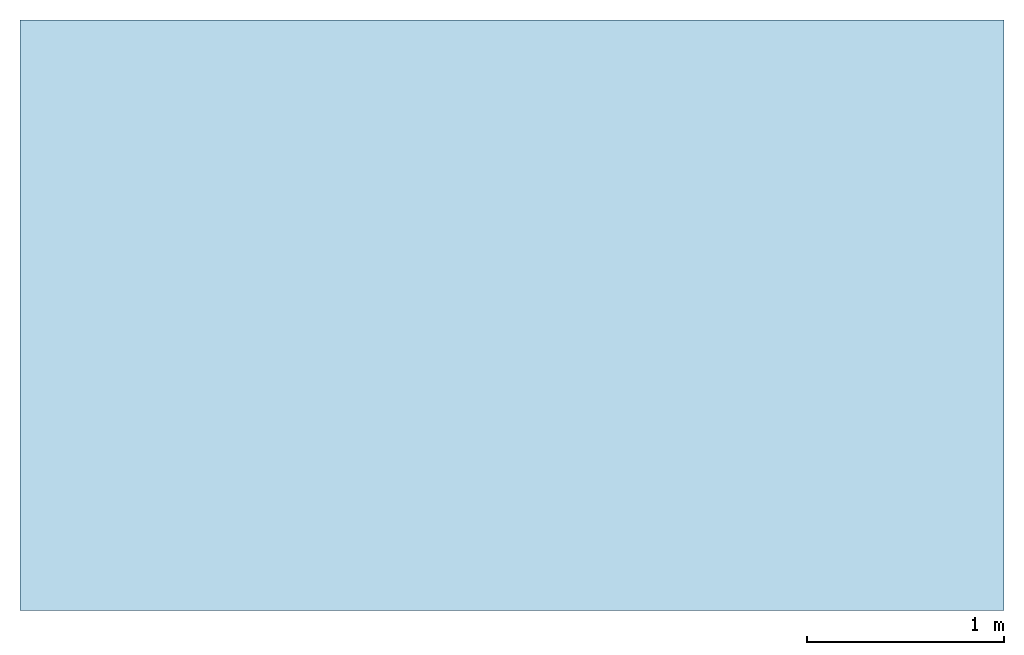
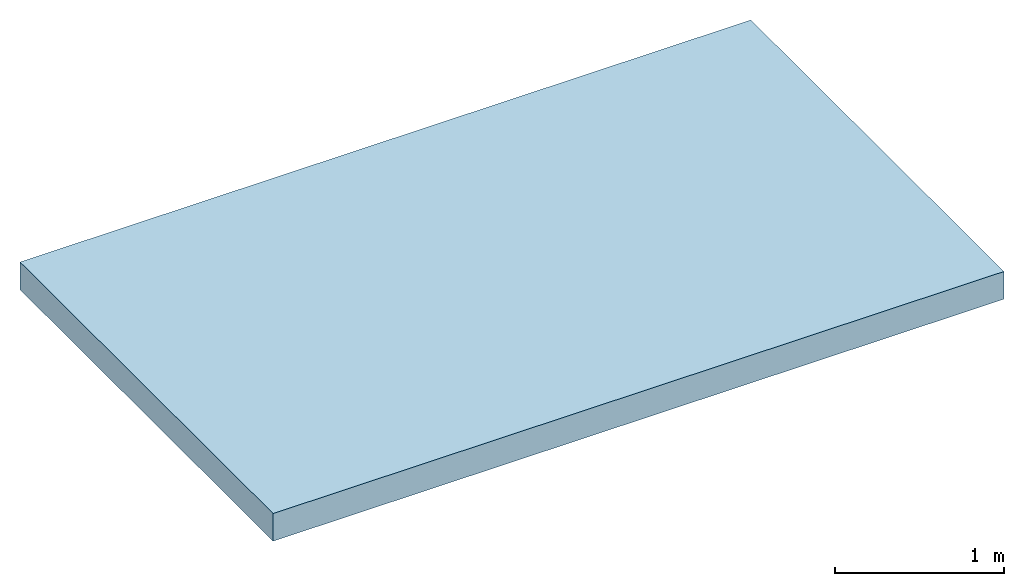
# One storey: 1 slab.
"""IFC4 building model written with IfcOpenShell, lengths in metres."""

import ifcopenshell
import ifcopenshell.guid

model = None  # the IFC model being written
_history = None  # IfcOwnerHistory: only IFC2X3 demands one
_inside = {}  # id of a spatial element -> (the spatial element, [elements in it])
_under = {}  # id of a project, library or spatial element -> (it, [spatial elements below it])
_declared = {}  # id of a project -> (the project, [libraries it declares])
_typed = {}  # id of a type object -> (the type object, [elements of that type])
_made_of = {}  # id of a material, layer set ... -> (it, [elements and type objects made of it])


def new_model(schema):
    """Start an empty IFC model of exactly this schema.

    Asked for "IFC4X3", IfcOpenShell would pick the latest addendum, in which some entities
    have other attributes; the version numbers below select the first issue.
    IFC2X3 requires an IfcOwnerHistory on every rooted entity: one is made here for all.
    """
    global model, _history
    if schema == "IFC4X3":
        model = ifcopenshell.file(schema_version=(4, 3, 0, 0))
    else:
        model = ifcopenshell.file(schema=schema)
    _inside.clear()
    _under.clear()
    _declared.clear()
    _typed.clear()
    _made_of.clear()
    _history = None
    if model.schema == "IFC2X3":
        org = make("IfcOrganization", Name="unknown")
        user = make(
            "IfcPersonAndOrganization",
            ThePerson=make("IfcPerson", FamilyName="unknown"),
            TheOrganization=org,
        )
        app = make(
            "IfcApplication",
            ApplicationDeveloper=org,
            Version="unknown",
            ApplicationFullName="unknown",
            ApplicationIdentifier="unknown",
        )
        _history = make(
            "IfcOwnerHistory",
            OwningUser=user,
            OwningApplication=app,
            ChangeAction="ADDED",
            CreationDate=0,
        )
    return model


def make(cls, **values):
    """One entity of the class cls with the attributes given. An attribute that is None is left unset."""
    return model.create_entity(
        cls, **{name: value for name, value in values.items() if value is not None}
    )


def entity(cls, *values):
    """Any entity or typed value of the class cls, its attributes in the order of the schema. None: left unset."""
    e = model.create_entity(cls)
    for i, value in enumerate(values):
        if value is not None:
            e[i] = value
    return e


def rooted(cls, **values):
    """An entity with a GlobalId (a new one), such as an element, a storey or a relation."""
    return make(cls, GlobalId=ifcopenshell.guid.new(), OwnerHistory=_history, **values)


def si_unit(unit_type, name, prefix=None):
    """IfcSIUnit, for example si_unit("LENGTHUNIT", "METRE", prefix="MILLI")."""
    return make("IfcSIUnit", UnitType=unit_type, Prefix=prefix, Name=name)


def converted_unit(unit_type, name, factor, base, dimensions=None, offset=None):
    """IfcConversionBasedUnit, such as the inch: factor (a typed value) times the base unit."""
    return make(
        "IfcConversionBasedUnit"
        if offset is None
        else "IfcConversionBasedUnitWithOffset",
        ConversionOffset=offset,
        Dimensions=None
        if dimensions is None
        else entity("IfcDimensionalExponents", *dimensions),
        UnitType=unit_type,
        Name=name,
        ConversionFactor=make(
            "IfcMeasureWithUnit", ValueComponent=factor, UnitComponent=base
        ),
    )


def derived_unit(unit_type, elements):
    """IfcDerivedUnit: a product of units, each with its exponent."""
    return make(
        "IfcDerivedUnit",
        Elements=[
            make("IfcDerivedUnitElement", Unit=unit, Exponent=power)
            for unit, power in elements
        ],
        UnitType=unit_type,
    )


def assignment(units):
    """IfcUnitAssignment: the units of a project."""
    return None if units is None else make("IfcUnitAssignment", Units=units)


def point(xyz):
    """IfcCartesianPoint."""
    return None if xyz is None else make("IfcCartesianPoint", Coordinates=xyz)


def direction(xyz):
    """IfcDirection."""
    return None if xyz is None else make("IfcDirection", DirectionRatios=xyz)


def frame(location, z_axis=None, x_axis=None):
    """IfcAxis2Placement3D, a coordinate frame: its origin and axes. An axis left out is left unset."""
    return make(
        "IfcAxis2Placement3D",
        Location=point(location),
        Axis=direction(z_axis),
        RefDirection=direction(x_axis),
    )


def frame_2d(location, x_axis=None):
    """IfcAxis2Placement2D, a coordinate frame in the plane: its origin and x axis."""
    return make(
        "IfcAxis2Placement2D", Location=point(location), RefDirection=direction(x_axis)
    )


def origin():
    """The frame at (0, 0, 0) with its axes left unset."""
    return frame((0.0, 0.0, 0.0))


def place(relative_to, where):
    """IfcLocalPlacement: puts the frame where relative to a parent placement (None: the world)."""
    return make(
        "IfcLocalPlacement", PlacementRelTo=relative_to, RelativePlacement=where
    )


def context(
    kind, dimensions, precision=None, world=None, true_north=None, identifier=None
):
    """IfcGeometricRepresentationContext, for example the 3D "Model" context."""
    return make(
        "IfcGeometricRepresentationContext",
        ContextIdentifier=identifier,
        ContextType=kind,
        CoordinateSpaceDimension=dimensions,
        Precision=precision,
        WorldCoordinateSystem=world,
        TrueNorth=true_north,
    )


def subcontext(parent, identifier, kind, view, scale=None):
    """IfcGeometricRepresentationSubContext, for example "Body" below "Model"."""
    return make(
        "IfcGeometricRepresentationSubContext",
        ContextIdentifier=identifier,
        ContextType=kind,
        ParentContext=parent,
        TargetScale=scale,
        TargetView=view,
    )


def project(units=None, contexts=None):
    """IfcProject with its units and contexts."""
    return rooted(
        "IfcProject",
        Name="project",
        RepresentationContexts=contexts,
        UnitsInContext=assignment(units),
    )


def spatial(cls, under=None, at=None, **own):
    """A site, building, storey or space (cls), placed at a placement, below another one or the project."""
    s = rooted(cls, ObjectPlacement=at, **own)
    if under is not None:
        _under.setdefault(under.id(), (under, []))[1].append(s)
    return s


def profile(cls, at=None, kind="AREA", **sizes):
    """A parametric profile (cls). Its sizes go by their IFC names, for example OverallWidth=200.0."""
    return make(cls, ProfileType=kind, Position=at, **sizes)


def rectangle(**sizes):
    """IfcRectangleProfileDef."""
    return profile("IfcRectangleProfileDef", **sizes)


def extrude(swept, where, along, depth):
    """IfcExtrudedAreaSolid: the profile swept, set in the frame where, extruded along a direction by depth."""
    return make(
        "IfcExtrudedAreaSolid",
        SweptArea=swept,
        Position=where,
        ExtrudedDirection=direction(along),
        Depth=depth,
    )


def shape(context_of_items, identifier, shape_type, items):
    """IfcShapeRepresentation: the items that make up one representation, for example the "Body"."""
    return make(
        "IfcShapeRepresentation",
        ContextOfItems=context_of_items,
        RepresentationIdentifier=identifier,
        RepresentationType=shape_type,
        Items=items,
    )


def made_of(thing, what):
    """Note that an element or type object is made of a material, layer set ...; save() writes the relation."""
    if what is not None:
        _made_of.setdefault(what.id(), (what, []))[1].append(thing)
    return thing


def element(
    cls,
    number,
    at=None,
    inside=None,
    cuts=None,
    type_object=None,
    material=None,
    context=None,
    identifier="Body",
    shape_type=None,
    held_by="IfcProductDefinitionShape",
    body=None,
    shapes=None,
    **own,
):
    """One element of the class cls, such as IfcWall. Its Tag is "e" and its number.

    at: its placement. inside: the storey or other place that contains it. cuts: it is an
    opening in that element (IfcRelVoidsElement). A single representation is given by context,
    identifier, shape_type and body (its items); several are given by shapes. held_by: the class
    of the entity that holds the representations. save() writes the other relations.
    """
    e = rooted(cls, Tag="e%d" % number, ObjectPlacement=at, **own)
    if body is not None:
        shapes = [shape(context, identifier, shape_type, body)]
    if shapes is not None:
        e.Representation = make(held_by, Representations=shapes)
    if inside is not None:
        _inside.setdefault(inside.id(), (inside, []))[1].append(e)
    if cuts is not None:
        rooted(
            "IfcRelVoidsElement", RelatingBuildingElement=cuts, RelatedOpeningElement=e
        )
    if type_object is not None:
        _typed.setdefault(type_object.id(), (type_object, []))[1].append(e)
    return made_of(e, material)


def aggregate(whole, parts):
    """IfcRelAggregates: a whole, such as a stair, and the parts it consists of."""
    return rooted("IfcRelAggregates", RelatingObject=whole, RelatedObjects=parts)


def save(model, path):
    """Write the relations noted so far, then the file.

    IfcRelAggregates (storeys below a building ...), IfcRelContainedInSpatialStructure (elements
    in a storey), IfcRelDefinesByType, IfcRelAssociatesMaterial and IfcRelDeclares: one each for
    every whole, place, type object, material and project.
    """
    for whole, parts in _under.values():
        aggregate(whole, parts)
    for where, things in _inside.values():
        rooted(
            "IfcRelContainedInSpatialStructure",
            RelatedElements=things,
            RelatingStructure=where,
        )
    for kind, things in _typed.values():
        rooted("IfcRelDefinesByType", RelatedObjects=things, RelatingType=kind)
    for what, things in _made_of.values():
        rooted("IfcRelAssociatesMaterial", RelatedObjects=things, RelatingMaterial=what)
    for by, libraries in _declared.values():
        rooted("IfcRelDeclares", RelatingContext=by, RelatedDefinitions=libraries)
    model.write(path)


model = new_model("IFC4")

# Units and contexts
model_context = context("Model", 3, precision=1e-05, world=origin())
body_context = subcontext(model_context, "Body", "Model", "MODEL_VIEW")
ifc_project = project(units=[si_unit("LENGTHUNIT", "METRE"), si_unit("AREAUNIT", "SQUARE_METRE"), si_unit("VOLUMEUNIT", "CUBIC_METRE"), si_unit("MASSUNIT", "GRAM", prefix="KILO"), converted_unit("PLANEANGLEUNIT", "DEGREE", entity("IfcPlaneAngleMeasure", 0.0174532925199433), si_unit("PLANEANGLEUNIT", "RADIAN"), dimensions=[0, 0, 0, 0, 0, 0, 0]), derived_unit("THERMALTRANSMITTANCEUNIT", [(si_unit("POWERUNIT", "WATT"), 1), (si_unit("THERMODYNAMICTEMPERATUREUNIT", "KELVIN"), -1), (si_unit("LENGTHUNIT", "METRE"), -2)]), derived_unit("VOLUMETRICFLOWRATEUNIT", [(si_unit("LENGTHUNIT", "METRE"), 3), (converted_unit("TIMEUNIT", "hour", entity("IfcTimeMeasure", 3600.0), si_unit("TIMEUNIT", "SECOND"), dimensions=[0, 0, 1, 0, 0, 0, 0]), -1), (si_unit("LENGTHUNIT", "METRE"), -1)])], contexts=[model_context])

# Site, building, storey
site_placement = place(None, origin())
site = spatial("IfcSite", under=ifc_project, at=site_placement, Name="Liegenschaft", CompositionType="ELEMENT")
building_placement = place(site_placement, origin())
building = spatial("IfcBuilding", under=site, at=building_placement, Name="Gebäude", CompositionType="ELEMENT")
storey_placement = place(building_placement, origin())
storey = spatial("IfcBuildingStorey", under=building, at=storey_placement, Name="Geschoss 01", CompositionType="ELEMENT", Elevation=0.0)

# Slab
slab_placement = place(storey_placement, frame((80.6958806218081, -2.14265977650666, -0.2)))
element("IfcSlab", 1, at=slab_placement, inside=storey, PredefinedType="FLOOR", context=body_context, shape_type="SweptSolid", body=[
    extrude(rectangle(XDim=3.0, YDim=5.0, at=frame_2d((2.5, -1.5), x_axis=(0.0, -1.0))), frame((0.0, 3.0, 0.0), z_axis=(0.0, 0.0, 1.0), x_axis=(1.0, 0.0, 0.0)), (0.0, 0.0, 1.0), 0.2),
])

save(model, "model.ifc")
